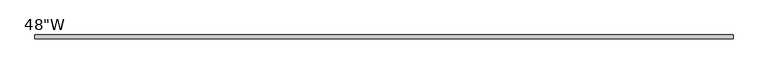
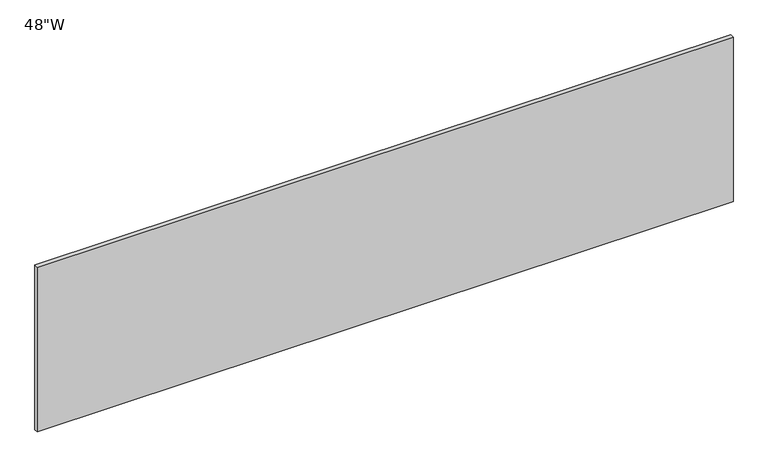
"""IFC4 building model written with IfcOpenShell, lengths in millimetres: furniture geometry."""

from ifc_helpers import new_model, si_unit, frame, origin, place, context, project, spatial, polyline, outline, extrude, source, transform, mapped, element, save


def furniture_30e258f1(model_context):
    return source(origin(), model_context, "Body", "SweptSolid", [
        extrude(outline(polyline([(596.9, -6.35), (-596.9, -6.35), (-596.9, 0.0), (596.9, 0.0), (596.9, -6.35)])), frame((0.0, 0.0, 1682.75), z_axis=(0.0, 0.0, 1.0), x_axis=(1.0, 0.0, 0.0)), (0.0, 0.0, 1.0), 298.45),
    ])


if __name__ == "__main__":
    model = new_model("IFC4")
    model_context = context("Model", 3, world=origin())
    ifc_project = project(units=[si_unit("LENGTHUNIT", "METRE", prefix="MILLI")], contexts=[model_context])
    site = spatial("IfcSite", under=ifc_project)
    building = spatial("IfcBuilding", under=site)
    placement = place(None, origin())
    furniture_shape = furniture_30e258f1(model_context)
    element("IfcFurniture", 1, ObjectType="HermanMiller_ActionOffice_A3390_B-StyleFlipperDoorBackPanel : 48\"W", at=placement, inside=building, context=model_context, shape_type="MappedRepresentation", body=[
        mapped(furniture_shape, transform((0.0, 0.0, 0.0), x_axis=(1.0, 0.0, 0.0), y_axis=(0.0, 1.0, 0.0), z_axis=(0.0, 0.0, 1.0))),
    ])
    save(model, "model.ifc")
